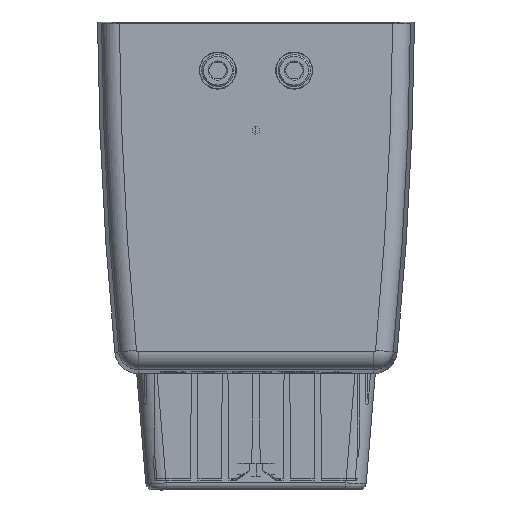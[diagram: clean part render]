
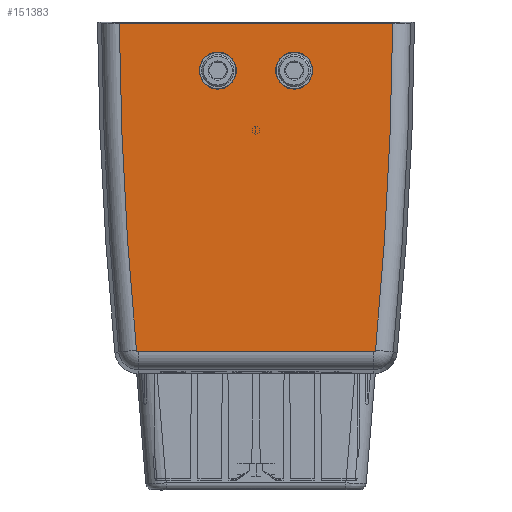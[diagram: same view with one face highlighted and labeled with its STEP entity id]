
A CAD part, left-side view. The second image highlights one B-rep face of the part: STEP entity #151383.
In plain terms, the highlighted planar face has unit normal (-1, 0, 0).
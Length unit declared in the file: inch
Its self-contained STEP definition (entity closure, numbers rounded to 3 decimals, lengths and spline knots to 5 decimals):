
#1302 = CARTESIAN_POINT ( 'NONE',  ( -43.58, -0.99054, -2.77545 ) ) ;
#2767 = DIRECTION ( 'NONE',  ( 0., 0., 1. ) ) ;
#9026 = ORIENTED_EDGE ( 'NONE', *, *, #154758, .T. ) ;
#10929 = EDGE_CURVE ( 'NONE', #69024, #21933, #36524, .T. ) ;
#12411 = VERTEX_POINT ( 'NONE', #158190 ) ;
#14499 = DIRECTION ( 'NONE',  ( 0., -1., 0. ) ) ;
#14690 = CARTESIAN_POINT ( 'NONE',  ( -43.58, 6.54436, -0.01012 ) ) ;
#15911 = CARTESIAN_POINT ( 'NONE',  ( -43.58, 30.60956, 0.27738 ) ) ;
#18221 = AXIS2_PLACEMENT_3D ( 'NONE', #88891, #100731, #63084 ) ;
#18502 = AXIS2_PLACEMENT_3D ( 'NONE', #33806, #149917, #57892 ) ;
#20224 = DIRECTION ( 'NONE',  ( 1., 0., 0. ) ) ;
#20723 = LINE ( 'NONE', #14690, #115075 ) ;
#21933 = VERTEX_POINT ( 'NONE', #34797 ) ;
#25141 = DIRECTION ( 'NONE',  ( 0., 0., 1. ) ) ;
#25441 = DIRECTION ( 'NONE',  ( -1., 0., 0. ) ) ;
#26040 = AXIS2_PLACEMENT_3D ( 'NONE', #32087, #121912, #57829 ) ;
#26262 = ORIENTED_EDGE ( 'NONE', *, *, #107144, .F. ) ;
#27114 = FACE_OUTER_BOUND ( 'NONE', #113589, .T. ) ;
#28681 = CIRCLE ( 'NONE', #144722, 0.15629 ) ;
#31453 = AXIS2_PLACEMENT_3D ( 'NONE', #37208, #25441, #37759 ) ;
#31899 = EDGE_CURVE ( 'NONE', #12411, #55124, #51542, .T. ) ;
#32087 = CARTESIAN_POINT ( 'NONE',  ( -43.58, 0.99054, -2.76031 ) ) ;
#33502 = CARTESIAN_POINT ( 'NONE',  ( -43.58, 1.00562, -2.76176 ) ) ;
#33806 = CARTESIAN_POINT ( 'NONE',  ( -43.58, -0.99054, -2.76031 ) ) ;
#34797 = CARTESIAN_POINT ( 'NONE',  ( -43.58, 0.3215, -0.25256 ) ) ;
#36524 = CIRCLE ( 'NONE', #31453, 0.15629 ) ;
#37208 = CARTESIAN_POINT ( 'NONE',  ( -43.58, 0.3215, -0.40885 ) ) ;
#37759 = DIRECTION ( 'NONE',  ( 0., 0., 1. ) ) ;
#38007 = EDGE_LOOP ( 'NONE', ( #98615, #26262 ) ) ;
#39833 = AXIS2_PLACEMENT_3D ( 'NONE', #82490, #20224, #72922 ) ;
#51425 = CARTESIAN_POINT ( 'NONE',  ( -43.58, -1.15006, -0.01012 ) ) ;
#51542 = CIRCLE ( 'NONE', #18502, 0.01515 ) ;
#55124 = VERTEX_POINT ( 'NONE', #1302 ) ;
#55183 = CIRCLE ( 'NONE', #18221, 0.15629 ) ;
#57829 = DIRECTION ( 'NONE',  ( 0., 0., 1. ) ) ;
#57892 = DIRECTION ( 'NONE',  ( 0., 0., 1. ) ) ;
#58543 = LINE ( 'NONE', #144586, #140845 ) ;
#62275 = VERTEX_POINT ( 'NONE', #51425 ) ;
#63084 = DIRECTION ( 'NONE',  ( 0., 0., 1. ) ) ;
#69024 = VERTEX_POINT ( 'NONE', #106986 ) ;
#69161 = DIRECTION ( 'NONE',  ( -1., 0., 0. ) ) ;
#70145 = CIRCLE ( 'NONE', #94050, 31.76091 ) ;
#72922 = DIRECTION ( 'NONE',  ( 0., 0., 1. ) ) ;
#74363 = CIRCLE ( 'NONE', #26040, 0.01515 ) ;
#74809 = EDGE_CURVE ( 'NONE', #145535, #107076, #70145, .T. ) ;
#75559 = ORIENTED_EDGE ( 'NONE', *, *, #31899, .F. ) ;
#82490 = CARTESIAN_POINT ( 'NONE',  ( -43.58, 30.60956, 0.27738 ) ) ;
#87962 = DIRECTION ( 'NONE',  ( -1., 0., 0. ) ) ;
#88475 = DIRECTION ( 'NONE',  ( -1., 0., 0. ) ) ;
#88891 = CARTESIAN_POINT ( 'NONE',  ( -43.58, 0.3215, -0.40885 ) ) ;
#89212 = ORIENTED_EDGE ( 'NONE', *, *, #133585, .F. ) ;
#89519 = EDGE_CURVE ( 'NONE', #107076, #136371, #74363, .T. ) ;
#92187 = DIRECTION ( 'NONE',  ( 0., 0., 1. ) ) ;
#93838 = PLANE ( 'NONE',  #136372 ) ;
#94050 = AXIS2_PLACEMENT_3D ( 'NONE', #138973, #88475, #25141 ) ;
#97009 = ORIENTED_EDGE ( 'NONE', *, *, #74809, .T. ) ;
#98615 = ORIENTED_EDGE ( 'NONE', *, *, #10929, .F. ) ;
#99257 = EDGE_CURVE ( 'NONE', #145535, #62275, #20723, .T. ) ;
#100731 = DIRECTION ( 'NONE',  ( -1., 0., 0. ) ) ;
#100923 = CARTESIAN_POINT ( 'NONE',  ( -43.58, 1.15006, -0.01012 ) ) ;
#106636 = CARTESIAN_POINT ( 'NONE',  ( -43.58, -0.3215, -0.40885 ) ) ;
#106986 = CARTESIAN_POINT ( 'NONE',  ( -43.58, 0.3215, -0.56513 ) ) ;
#107076 = VERTEX_POINT ( 'NONE', #33502 ) ;
#107144 = EDGE_CURVE ( 'NONE', #21933, #69024, #55183, .T. ) ;
#113589 = EDGE_LOOP ( 'NONE', ( #89212, #149860, #97009, #136924, #9026, #75559 ) ) ;
#114385 = DIRECTION ( 'NONE',  ( 0., 0., 1. ) ) ;
#115075 = VECTOR ( 'NONE', #154993, 39.37008 ) ;
#116195 = ORIENTED_EDGE ( 'NONE', *, *, #159629, .F. ) ;
#121912 = DIRECTION ( 'NONE',  ( -1., 0., 0. ) ) ;
#123518 = CARTESIAN_POINT ( 'NONE',  ( -43.58, -0.3215, -0.56513 ) ) ;
#125288 = EDGE_LOOP ( 'NONE', ( #127857, #116195 ) ) ;
#125411 = AXIS2_PLACEMENT_3D ( 'NONE', #151978, #87962, #114385 ) ;
#127857 = ORIENTED_EDGE ( 'NONE', *, *, #156995, .F. ) ;
#129524 = FACE_BOUND ( 'NONE', #125288, .T. ) ;
#133585 = EDGE_CURVE ( 'NONE', #62275, #12411, #156734, .T. ) ;
#136371 = VERTEX_POINT ( 'NONE', #147368 ) ;
#136372 = AXIS2_PLACEMENT_3D ( 'NONE', #15911, #69161, #92187 ) ;
#136924 = ORIENTED_EDGE ( 'NONE', *, *, #89519, .T. ) ;
#137461 = FACE_BOUND ( 'NONE', #38007, .T. ) ;
#138973 = CARTESIAN_POINT ( 'NONE',  ( -43.58, -30.60956, 0.27738 ) ) ;
#140845 = VECTOR ( 'NONE', #14499, 39.37008 ) ;
#142364 = VERTEX_POINT ( 'NONE', #123518 ) ;
#144586 = CARTESIAN_POINT ( 'NONE',  ( -43.58, -0.99054, -2.77545 ) ) ;
#144722 = AXIS2_PLACEMENT_3D ( 'NONE', #106636, #157149, #2767 ) ;
#145535 = VERTEX_POINT ( 'NONE', #100923 ) ;
#147368 = CARTESIAN_POINT ( 'NONE',  ( -43.58, 0.99054, -2.77545 ) ) ;
#149860 = ORIENTED_EDGE ( 'NONE', *, *, #99257, .F. ) ;
#149917 = DIRECTION ( 'NONE',  ( 1., 0., 0. ) ) ;
#151383 = ADVANCED_FACE ( 'NONE', ( #137461, #129524, #27114 ), #93838, .T. ) ;
#151978 = CARTESIAN_POINT ( 'NONE',  ( -43.58, -0.3215, -0.40885 ) ) ;
#154608 = CARTESIAN_POINT ( 'NONE',  ( -43.58, -0.3215, -0.25256 ) ) ;
#154758 = EDGE_CURVE ( 'NONE', #136371, #55124, #58543, .T. ) ;
#154993 = DIRECTION ( 'NONE',  ( 0., -1., 0. ) ) ;
#155867 = CIRCLE ( 'NONE', #125411, 0.15629 ) ;
#156673 = VERTEX_POINT ( 'NONE', #154608 ) ;
#156734 = CIRCLE ( 'NONE', #39833, 31.76091 ) ;
#156995 = EDGE_CURVE ( 'NONE', #142364, #156673, #155867, .T. ) ;
#157149 = DIRECTION ( 'NONE',  ( -1., 0., 0. ) ) ;
#158190 = CARTESIAN_POINT ( 'NONE',  ( -43.58, -1.00562, -2.76176 ) ) ;
#159629 = EDGE_CURVE ( 'NONE', #156673, #142364, #28681, .T. ) ;
